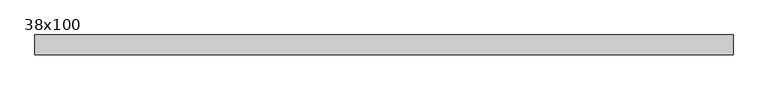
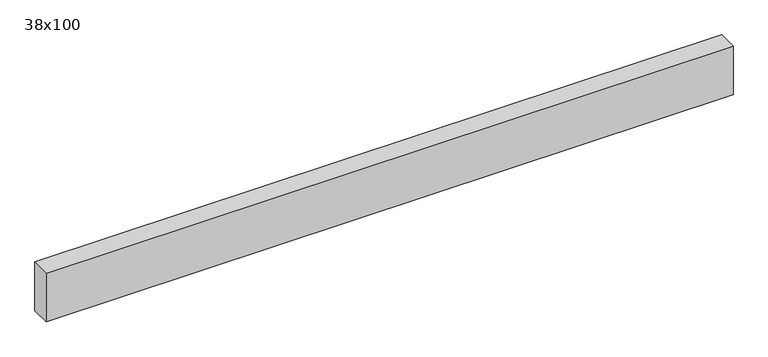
"""IFC4 building model written with IfcOpenShell, lengths in millimetres: beam geometry, Poutre - Bois de construction de dimensions courantes : 38x100."""

from ifc_helpers import new_model, si_unit, frame, origin, place, context, project, spatial, polyline, outline, extrude, source, transform, mapped, element, save


def beam_38x100_ab92d87a(model_context):
    return source(origin(), model_context, "Body", "SweptSolid", [
        extrude(outline(polyline([(718.0, 19.05), (718.0, -19.05), (-617.0, -19.05), (-617.0, 19.05), (718.0, 19.05)])), frame((0.0, 0.0, -50.0), z_axis=(0.0, 0.0, 1.0), x_axis=(1.0, 0.0, 0.0)), (0.0, 0.0, 1.0), 100.0),
    ])


if __name__ == "__main__":
    model = new_model("IFC4")
    model_context = context("Model", 3, world=origin())
    ifc_project = project(units=[si_unit("LENGTHUNIT", "METRE", prefix="MILLI")], contexts=[model_context])
    site = spatial("IfcSite", under=ifc_project)
    building = spatial("IfcBuilding", under=site)
    placement = place(None, origin())
    beam_38x100_shape = beam_38x100_ab92d87a(model_context)
    element("IfcBeam", 1, ObjectType="Poutre - Bois de construction de dimensions courantes : 38x100", at=placement, inside=building, context=model_context, shape_type="MappedRepresentation", body=[
        mapped(beam_38x100_shape, transform((0.0, 0.0, 0.0), x_axis=(1.0, 0.0, 0.0), y_axis=(0.0, 1.0, 0.0), z_axis=(0.0, 0.0, 1.0))),
    ])
    save(model, "model.ifc")
